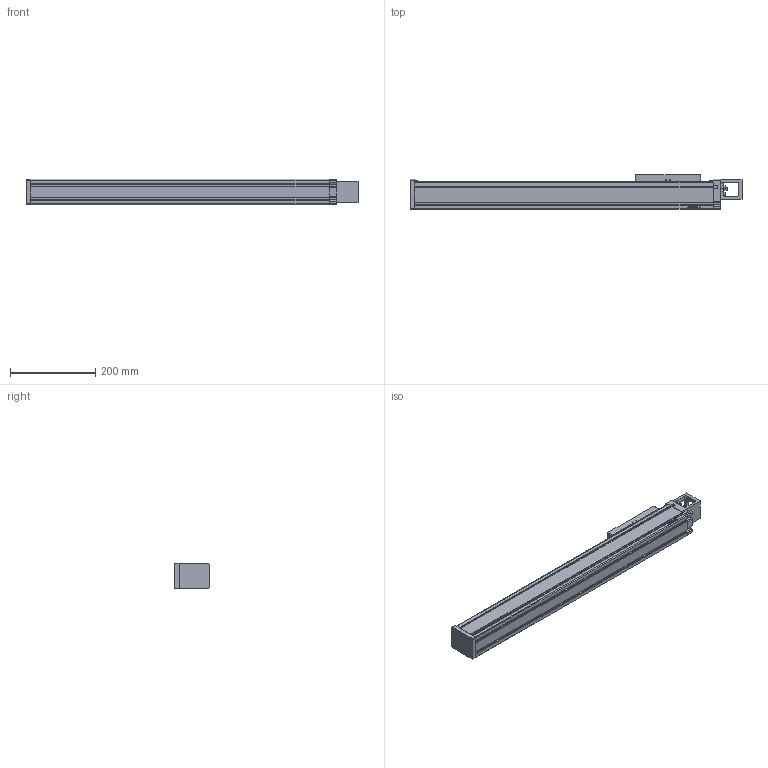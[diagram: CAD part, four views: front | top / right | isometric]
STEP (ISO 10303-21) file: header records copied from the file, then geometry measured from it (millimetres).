
FILE_DESCRIPTION(/* description */ (''),/* implementation_level */ '2;1');
FILE_NAME(/* name */ 'D:\混合母檔20191031\混和母檔\混和母檔\bin\Debug\Download\3D\KU60-10C-500AF0\KU60-10C-500AF0.stp',/* time_stamp */ '2019-11-04T16:38:40+08:00',/* author */ ('user'),/* organization */ (''),/* preprocessor_version */ 'ST-DEVELOPER v16.13',/* originating_system */ 'Autodesk Inventor 2018',/* authorisation */ '');
FILE_SCHEMA (('AUTOMOTIVE_DESIGN { 1 0 10303 214 3 1 1 }'));
Length unit declared in the file: millimetre
Products named in the file (3): KU60-10C-500AF0; KU060-F0-BP; KU60-SL
Assembly tree (2 placements, depth 2):
  KU60-10C-500AF0
    KU060-F0-BP
    KU60-SL
Bounding box: 781 x 82 x 60 mm (x, y, z)
Volume: 2870315.2 mm3; surface area: 299704.1 mm2
Topology: 2 solids, 14 shells, 756 faces, 2087 edges, 1370 vertices
Faces by surface type: plane 448, bspline 140, cylinder 133, cone 23, torus 12
Full cylindrical faces by diameter (mm): 2.459 x8, 3 x4, 3.242 x16, 3.5 x4, 4.5 x4, 5 x4, 5.5 x4, 5.7 x4, 6 x1, 8 x1, 8.5 x4, 30 x1, 35 x1
Entity records: 24568 total; most frequent: CARTESIAN_POINT 6539, ORIENTED_EDGE 3902, DIRECTION 3204, EDGE_CURVE 1951, VERTEX_POINT 1321, LINE 1288, VECTOR 1288, AXIS2_PLACEMENT_3D 958
